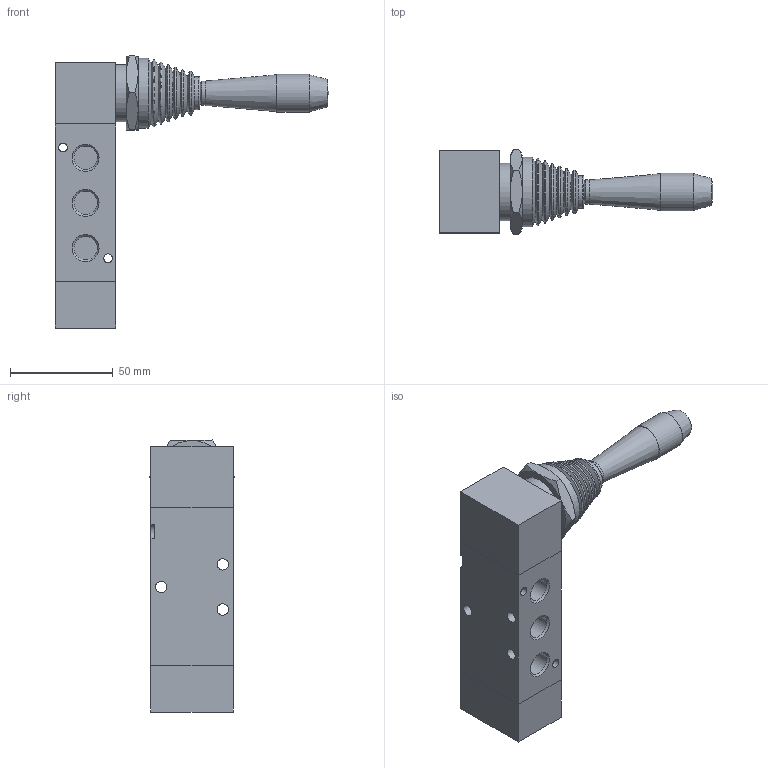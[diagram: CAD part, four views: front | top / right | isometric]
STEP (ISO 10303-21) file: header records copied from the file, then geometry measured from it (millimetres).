
FILE_DESCRIPTION((''),'2;1');
FILE_NAME('I:\Area Tecnica\Disegni\VARIE-3D\Componenti\T200\T224\T224_53_3#_9-#.stp','2009-07-01T08:31:07',('rivolro1'),(''),'Autodesk Inventor 2010','Autodesk Inventor 2010','');
FILE_SCHEMA(('AUTOMOTIVE_DESIGN { 1 0 10303 214 1 1 1 1 }'));
Length unit declared in the file: millimetre
Products named in the file (3): T224_53_3#_9-#; RS-214-13
Assembly tree (2 placements, depth 2):
  T224_53_3#_9-#
    T224_53_3#_9-#
    RS-214-13
Bounding box: 133.31 x 41.56 x 132.66 mm (x, y, z)
Volume: 177505.5 mm3; surface area: 42860.5 mm2
Topology: 7 solids, 7 shells, 103 faces, 206 edges, 127 vertices
Faces by surface type: plane 42, cone 22, cylinder 16, bspline 15, torus 7, sphere 1
Full cylindrical faces by diameter (mm): 4.25 x2, 5.5 x3, 11.876 x1, 16 x1, 18.5 x1, 28 x3, 29.5 x1, 32 x1, 34 x1
Entity records: 2698 total; most frequent: CARTESIAN_POINT 593, DIRECTION 402, ORIENTED_EDGE 302, EDGE_LOOP 180, AXIS2_PLACEMENT_3D 170, EDGE_CURVE 151, VERTEX_POINT 125, FACE_OUTER_BOUND 103
